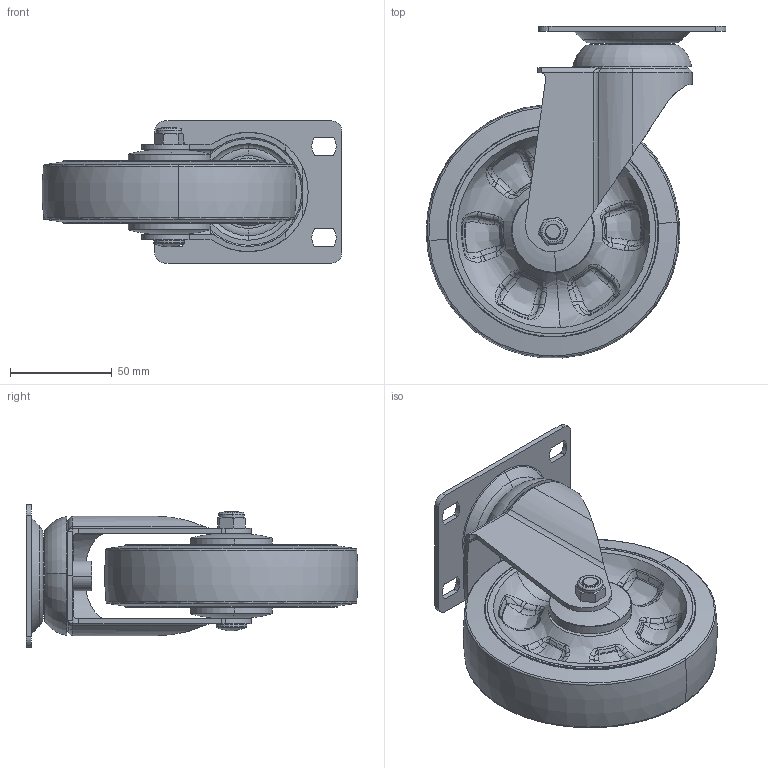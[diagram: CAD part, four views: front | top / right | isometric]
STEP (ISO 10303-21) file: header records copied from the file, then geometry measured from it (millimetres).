
FILE_DESCRIPTION (( 'STEP AP203' ), '1' );
FILE_NAME ('4111605002060-儀器白鐵活動W全效輪.STEP', '2025-12-22T01:05:10', ( '' ), ( '' ), 'SwSTEP 2.0', 'SolidWorks 2019', '' );
FILE_SCHEMA (( 'CONFIG_CONTROL_DESIGN' ));
Length unit declared in the file: metre
Products named in the file (1): 4111605002060-儀器白鐵活動W全效輪
Bounding box: 147.43 x 163.26 x 70 mm (x, y, z)
Surface area: 86531.8 mm2 (no closed solid volume)
Topology: 0 solids, 12 shells, 565 faces, 1444 edges, 897 vertices
Faces by surface type: bspline 333, cylinder 72, torus 64, plane 56, cone 36, sphere 4
Entity records: 41181 total; most frequent: CARTESIAN_POINT 30136, ORIENTED_EDGE 2743, DIRECTION 1578, EDGE_CURVE 1442, VERTEX_POINT 897, B_SPLINE_CURVE_WITH_KNOTS 721, AXIS2_PLACEMENT_3D 681, EDGE_LOOP 605
